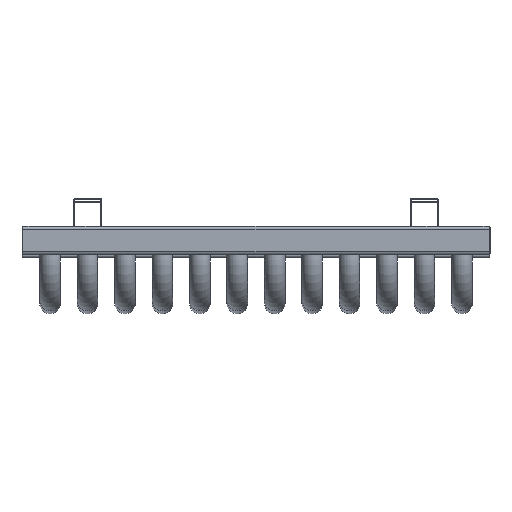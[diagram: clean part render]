
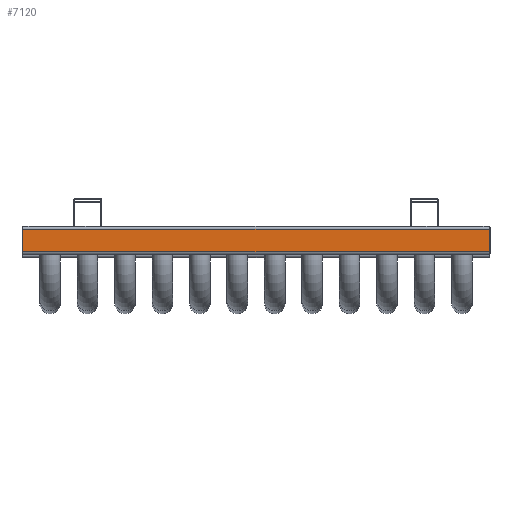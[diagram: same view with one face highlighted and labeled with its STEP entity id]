
A CAD part, top view. The second image highlights one B-rep face of the part: STEP entity #7120.
In plain terms, the highlighted planar face has unit normal (0, 0, 1).
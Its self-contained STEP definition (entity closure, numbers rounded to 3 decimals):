
#3852=CARTESIAN_POINT('',(-249.,12.,2000.));
#3853=VERTEX_POINT('',#3852);
#3918=CARTESIAN_POINT('',(-249.,-12.,2000.));
#3919=VERTEX_POINT('',#3918);
#3927=CARTESIAN_POINT('',(-249.,-12.,2000.));
#3928=DIRECTION('',(0.0,1.0,0.0));
#3929=VECTOR('',#3928,24.);
#3930=LINE('',#3927,#3929);
#3931=EDGE_CURVE('',#3919,#3853,#3930,.T.);
#4056=CARTESIAN_POINT('',(249.,12.,2000.));
#4057=VERTEX_POINT('',#4056);
#4065=CARTESIAN_POINT('',(249.,-12.,2000.));
#4066=VERTEX_POINT('',#4065);
#4067=CARTESIAN_POINT('',(249.,12.,2000.));
#4068=DIRECTION('',(0.0,-1.0,0.0));
#4069=VECTOR('',#4068,24.0);
#4070=LINE('',#4067,#4069);
#4071=EDGE_CURVE('',#4057,#4066,#4070,.T.);
#7084=CARTESIAN_POINT('',(249.,12.,2000.));
#7085=DIRECTION('',(-1.0,0.0,0.0));
#7086=VECTOR('',#7085,498.0);
#7087=LINE('',#7084,#7086);
#7088=EDGE_CURVE('',#4057,#3853,#7087,.T.);
#7104=CARTESIAN_POINT('',(248.5,12.,2000.));
#7105=DIRECTION('',(0.0,0.0,1.0));
#7106=DIRECTION('',(-1.0,0.0,0.0));
#7107=AXIS2_PLACEMENT_3D('',#7104,#7105,#7106);
#7108=PLANE('',#7107);
#7109=CARTESIAN_POINT('',(249.,-12.,2000.));
#7110=DIRECTION('',(-1.0,0.0,0.0));
#7111=VECTOR('',#7110,498.0);
#7112=LINE('',#7109,#7111);
#7113=EDGE_CURVE('',#4066,#3919,#7112,.T.);
#7114=ORIENTED_EDGE('',*,*,#7113,.F.);
#7115=ORIENTED_EDGE('',*,*,#4071,.F.);
#7116=ORIENTED_EDGE('',*,*,#7088,.T.);
#7117=ORIENTED_EDGE('',*,*,#3931,.F.);
#7118=EDGE_LOOP('',(#7114,#7115,#7116,#7117));
#7119=FACE_OUTER_BOUND('',#7118,.T.);
#7120=ADVANCED_FACE('',(#7119),#7108,.T.);
